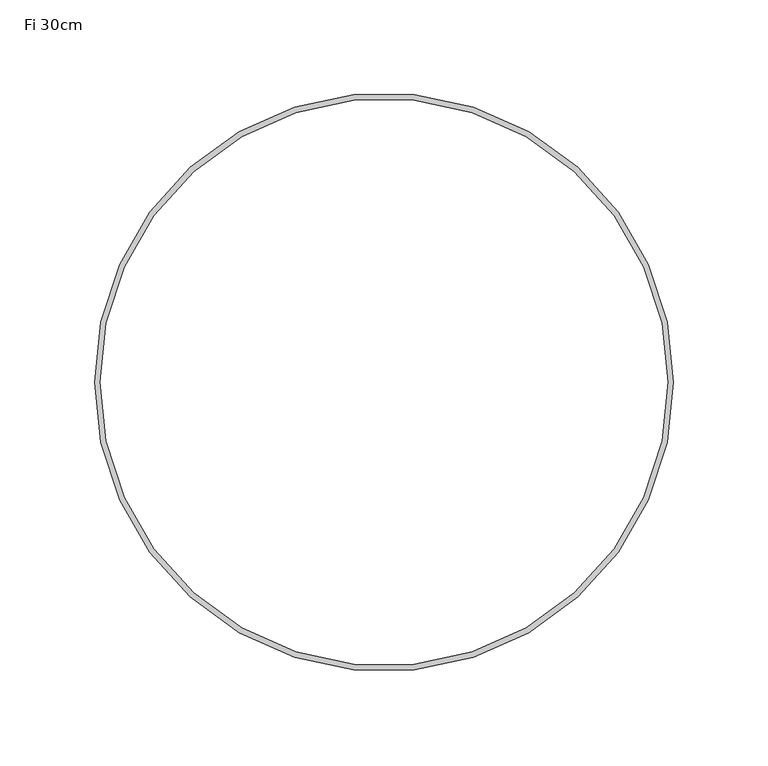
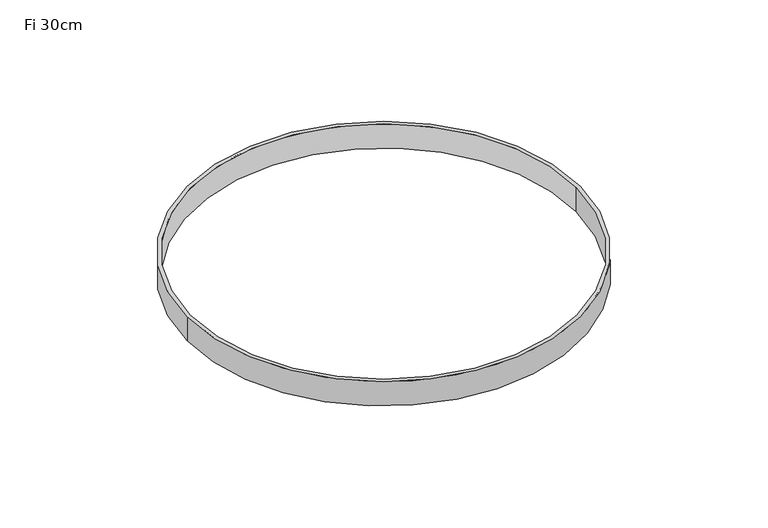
"""IFC4 building model written with IfcOpenShell, lengths in millimetres: proxy geometry, Extractor Decor Circular : Fi 30cm."""

from ifc_helpers import new_model, si_unit, point, frame, origin, origin_2d, place, context, project, spatial, circle_curve, trimmed, segment, composite_curve, outline, extrude, source, transform, mapped, element, save


def fi_30cm_ab08db21(model_context):
    return source(origin(), model_context, "Body", "SweptSolid", [
        extrude(outline(composite_curve([segment(trimmed(circle_curve(origin_2d(), 153.0), [point((153.0, 0.0))], [point((-153.0, 0.0))], False, "CARTESIAN"), True, "CONTINUOUS"), segment(trimmed(circle_curve(origin_2d(), 153.0), [point((-153.0, 0.0))], [point((153.0, 0.0))], False, "CARTESIAN"), True, "CONTINUOUS")], self_intersect=False), holes=[composite_curve([segment(trimmed(circle_curve(origin_2d(), 150.0), [point((150.0, 0.0))], [point((-150.0, 0.0))], True, "CARTESIAN"), True, "CONTINUOUS"), segment(trimmed(circle_curve(origin_2d(), 150.0), [point((-150.0, 0.0))], [point((150.0, 0.0))], True, "CARTESIAN"), True, "CONTINUOUS")], self_intersect=False)]), frame((0.0, 0.0, -20.0), z_axis=(0.0, 0.0, 1.0), x_axis=(1.0, 0.0, 0.0)), (0.0, 0.0, 1.0), 20.0),
    ])


if __name__ == "__main__":
    model = new_model("IFC4")
    model_context = context("Model", 3, world=origin())
    ifc_project = project(units=[si_unit("LENGTHUNIT", "METRE", prefix="MILLI")], contexts=[model_context])
    site = spatial("IfcSite", under=ifc_project)
    building = spatial("IfcBuilding", under=site)
    placement = place(None, origin())
    fi_30cm_shape = fi_30cm_ab08db21(model_context)
    element("IfcBuildingElementProxy", 1, Name="Extractor Decor Circular : Fi 30cm", ObjectType="Extractor Decor Circular : Fi 30cm", at=placement, inside=building, context=model_context, shape_type="MappedRepresentation", body=[
        mapped(fi_30cm_shape, transform((0.0, 0.0, 0.0), x_axis=(1.0, 0.0, 0.0), y_axis=(0.0, 1.0, 0.0), z_axis=(0.0, 0.0, 1.0))),
    ])
    save(model, "model.ifc")
